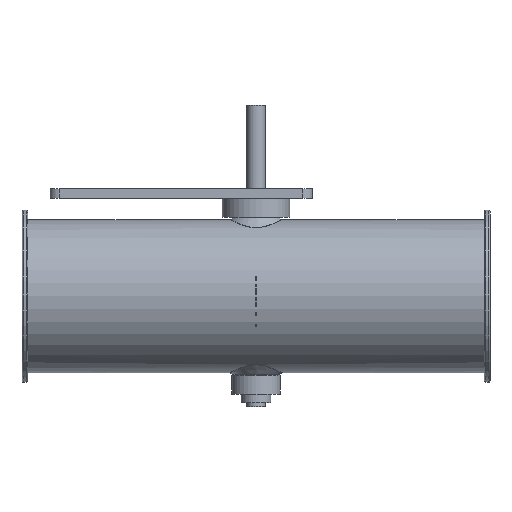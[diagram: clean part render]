
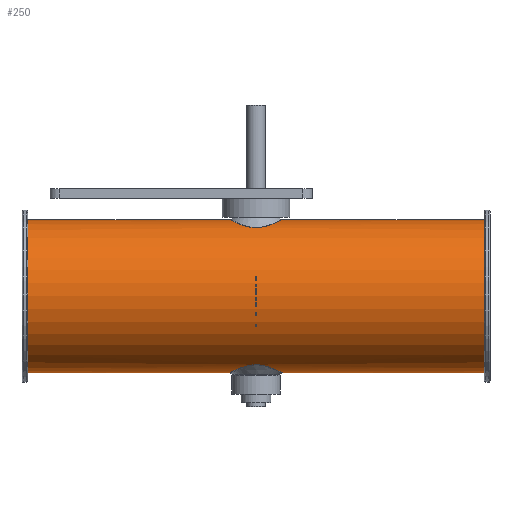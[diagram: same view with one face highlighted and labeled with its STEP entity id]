
A CAD part, top view. The second image highlights one B-rep face of the part: STEP entity #250.
In plain terms, the highlighted cylindrical face has radius 40.8 mm (diameter 81.6 mm), a full revolution.
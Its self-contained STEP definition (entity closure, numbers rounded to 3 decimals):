
#113=B_SPLINE_CURVE_WITH_KNOTS('',3,(#1576,#1577,#1578,#1579,#1580,#1581,
#1582,#1583,#1584,#1585,#1586,#1587,#1588,#1589,#1590,#1591,#1592,#1593,
#1594,#1595,#1596,#1597,#1598,#1599,#1600,#1601,#1602,#1603),.UNSPECIFIED.,
 .T.,.F.,(2,2,2,2,2,2,2,2,2,2,2,2,2,2,2,2),(-0.063,0.,0.125,
0.25,0.313,0.375,0.438,
0.5,0.563,0.625,0.75,0.813,0.875,
0.938,1.,1.125),.UNSPECIFIED.);
#114=B_SPLINE_CURVE_WITH_KNOTS('',3,(#1605,#1606,#1607,#1608,#1609,#1610,
#1611,#1612,#1613,#1614,#1615,#1616,#1617,#1618,#1619,#1620,#1621,#1622,
#1623,#1624,#1625,#1626,#1627,#1628,#1629,#1630,#1631,#1632,#1633,#1634),
 .UNSPECIFIED.,.T.,.F.,(2,2,2,2,2,2,2,2,2,2,2,2,2,2,2,2,2),(-0.063,
0.,0.062,0.125,0.188,0.25,0.375,0.438,0.5,0.563,
0.625,0.688,0.75,0.875,0.938,1.,1.063),.UNSPECIFIED.);
#211=CYLINDRICAL_SURFACE('',#1093,40.8);
#250=ADVANCED_FACE('',(#363,#364,#365,#366),#211,.T.);
#363=FACE_BOUND('',#497,.T.);
#364=FACE_BOUND('',#498,.T.);
#365=FACE_BOUND('',#499,.T.);
#366=FACE_BOUND('',#500,.T.);
#497=EDGE_LOOP('',(#675));
#498=EDGE_LOOP('',(#676));
#499=EDGE_LOOP('',(#677));
#500=EDGE_LOOP('',(#678));
#675=ORIENTED_EDGE('',*,*,#917,.T.);
#676=ORIENTED_EDGE('',*,*,#918,.T.);
#677=ORIENTED_EDGE('',*,*,#919,.T.);
#678=ORIENTED_EDGE('',*,*,#920,.F.);
#823=VERTEX_POINT('',#1575);
#824=VERTEX_POINT('',#1604);
#825=VERTEX_POINT('',#1635);
#826=VERTEX_POINT('',#1637);
#917=EDGE_CURVE('',#823,#823,#999,.T.);
#918=EDGE_CURVE('',#824,#824,#113,.T.);
#919=EDGE_CURVE('',#825,#825,#114,.T.);
#920=EDGE_CURVE('',#826,#826,#1000,.T.);
#999=CIRCLE('',#1091,40.8);
#1000=CIRCLE('',#1092,40.8);
#1091=AXIS2_PLACEMENT_3D('',#1574,#1294,#1295);
#1092=AXIS2_PLACEMENT_3D('',#1636,#1296,#1297);
#1093=AXIS2_PLACEMENT_3D('',#1638,#1298,#1299);
#1294=DIRECTION('',(1.,0.,0.));
#1295=DIRECTION('',(0.,0.,1.));
#1296=DIRECTION('',(1.,0.,0.));
#1297=DIRECTION('',(0.,0.,1.));
#1298=DIRECTION('',(1.,0.,0.));
#1299=DIRECTION('',(0.,0.,-1.));
#1574=CARTESIAN_POINT('',(-122.,1.7,125.));
#1575=CARTESIAN_POINT('',(-122.,1.7,165.8));
#1576=CARTESIAN_POINT('',(-5.395,-35.522,108.233));
#1577=CARTESIAN_POINT('',(-10.314,-37.121,112.136));
#1578=CARTESIAN_POINT('',(-12.526,-38.286,115.893));
#1579=CARTESIAN_POINT('',(-14.573,-39.3,124.113));
#1580=CARTESIAN_POINT('',(-14.278,-39.137,128.606));
#1581=CARTESIAN_POINT('',(-11.972,-38.029,134.501));
#1582=CARTESIAN_POINT('',(-10.92,-37.535,136.319));
#1583=CARTESIAN_POINT('',(-8.287,-36.464,139.527));
#1584=CARTESIAN_POINT('',(-6.711,-35.88,140.922));
#1585=CARTESIAN_POINT('',(-2.997,-34.995,142.868));
#1586=CARTESIAN_POINT('',(-0.776,-34.74,143.354));
#1587=CARTESIAN_POINT('',(3.453,-35.035,142.757));
#1588=CARTESIAN_POINT('',(5.401,-35.524,141.764));
#1589=CARTESIAN_POINT('',(8.676,-36.588,139.164));
#1590=CARTESIAN_POINT('',(10.013,-37.153,137.588));
#1591=CARTESIAN_POINT('',(12.212,-38.133,134.022));
#1592=CARTESIAN_POINT('',(13.03,-38.535,132.078));
#1593=CARTESIAN_POINT('',(14.58,-39.303,125.868));
#1594=CARTESIAN_POINT('',(14.29,-39.142,121.43));
#1595=CARTESIAN_POINT('',(11.972,-38.029,115.496));
#1596=CARTESIAN_POINT('',(10.935,-37.541,113.701));
#1597=CARTESIAN_POINT('',(8.286,-36.463,110.47));
#1598=CARTESIAN_POINT('',(6.716,-35.882,109.082));
#1599=CARTESIAN_POINT('',(2.997,-34.995,107.132));
#1600=CARTESIAN_POINT('',(0.781,-34.74,106.646));
#1601=CARTESIAN_POINT('',(-3.455,-35.035,107.243));
#1602=CARTESIAN_POINT('',(-5.395,-35.522,108.233));
#1603=CARTESIAN_POINT('',(-10.314,-37.121,112.136));
#1604=CARTESIAN_POINT('',(-7.035,-36.055,109.534));
#1605=CARTESIAN_POINT('',(-8.677,39.989,110.837));
#1606=CARTESIAN_POINT('',(-5.393,38.921,108.231));
#1607=CARTESIAN_POINT('',(-3.45,38.434,107.241));
#1608=CARTESIAN_POINT('',(0.792,38.14,106.646));
#1609=CARTESIAN_POINT('',(3.004,38.396,107.134));
#1610=CARTESIAN_POINT('',(6.717,39.282,109.083));
#1611=CARTESIAN_POINT('',(8.288,39.864,110.473));
#1612=CARTESIAN_POINT('',(10.931,40.94,113.696));
#1613=CARTESIAN_POINT('',(11.98,41.432,115.513));
#1614=CARTESIAN_POINT('',(14.288,42.542,121.434));
#1615=CARTESIAN_POINT('',(14.582,42.704,125.865));
#1616=CARTESIAN_POINT('',(13.027,41.934,132.088));
#1617=CARTESIAN_POINT('',(12.211,41.533,134.023));
#1618=CARTESIAN_POINT('',(10.01,40.552,137.592));
#1619=CARTESIAN_POINT('',(8.677,39.989,139.161));
#1620=CARTESIAN_POINT('',(5.414,38.928,141.755));
#1621=CARTESIAN_POINT('',(3.469,38.437,142.752));
#1622=CARTESIAN_POINT('',(-0.771,38.14,143.355));
#1623=CARTESIAN_POINT('',(-2.988,38.393,142.871));
#1624=CARTESIAN_POINT('',(-6.705,39.278,140.927));
#1625=CARTESIAN_POINT('',(-8.278,39.86,139.536));
#1626=CARTESIAN_POINT('',(-10.923,40.936,136.316));
#1627=CARTESIAN_POINT('',(-11.974,41.429,134.5));
#1628=CARTESIAN_POINT('',(-14.288,42.542,128.573));
#1629=CARTESIAN_POINT('',(-14.582,42.704,124.14));
#1630=CARTESIAN_POINT('',(-13.03,41.935,117.919));
#1631=CARTESIAN_POINT('',(-12.213,41.533,115.98));
#1632=CARTESIAN_POINT('',(-10.013,40.553,112.411));
#1633=CARTESIAN_POINT('',(-8.677,39.989,110.837));
#1634=CARTESIAN_POINT('',(-5.393,38.921,108.231));
#1635=CARTESIAN_POINT('',(-7.035,39.455,109.534));
#1636=CARTESIAN_POINT('',(122.,1.7,125.));
#1637=CARTESIAN_POINT('',(122.,1.7,165.8));
#1638=CARTESIAN_POINT('',(-125.,1.7,125.));
